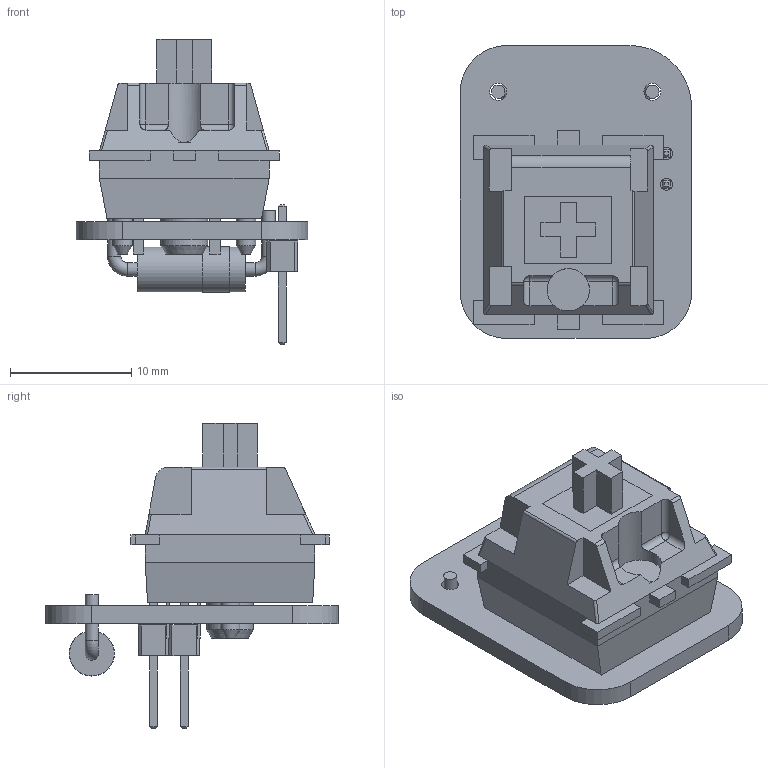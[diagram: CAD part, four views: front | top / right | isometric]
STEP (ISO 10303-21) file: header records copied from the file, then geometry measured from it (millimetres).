
FILE_DESCRIPTION(('KiCad electronic assembly'),'2;1');
FILE_NAME('KeyboardBig.step','2026-03-17T08:50:09',('Pcbnew'),('Kicad'), 'Open CASCADE STEP processor 7.9','KiCad to STEP converter','Unknown' );
FILE_SCHEMA(('AUTOMOTIVE_DESIGN { 1 0 10303 214 1 1 1 1 }'));
Length unit declared in the file: millimetre
Products named in the file (7): KeyboardBig 1; switch; Component1; Component2; D_5W_P12.70mm_Horizontal; PinHeader_1x02_P2.54mm_Vertical; KeyboardBig_PCB
Assembly tree (6 placements, depth 3):
  KeyboardBig 1
    switch
      Component1
      Component2
    D_5W_P12.70mm_Horizontal
    PinHeader_1x02_P2.54mm_Vertical
    KeyboardBig_PCB
Bounding box: 19.05 x 24.13 x 25.15 mm (x, y, z)
Volume: 2529.3 mm3; surface area: 3038.2 mm2
Topology: 11 solids, 11 shells, 215 faces, 516 edges, 333 vertices
Faces by surface type: plane 169, cylinder 39, cone 3, sphere 2, torus 2
Full cylindrical faces by diameter (mm): 1 x2, 1.1 x4, 1.4 x2, 1.5 x2, 1.6 x2, 1.75 x2, 3.7 x2, 3.72 x1, 3.85 x1, 4 x1
Entity records: 6838 total; most frequent: CARTESIAN_POINT 1095, DIRECTION 1037, ORIENTED_EDGE 1032, EDGE_CURVE 516, LINE 423, VECTOR 423, VERTEX_POINT 333, AXIS2_PLACEMENT_3D 307
